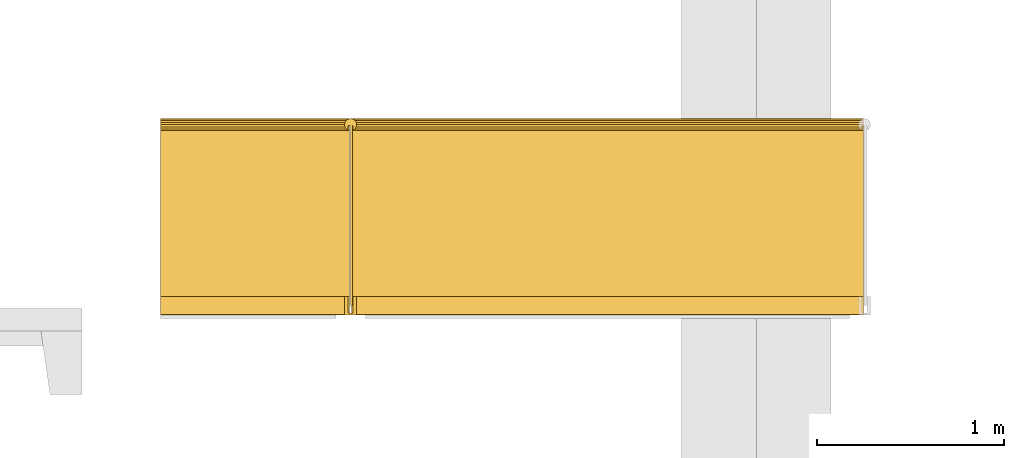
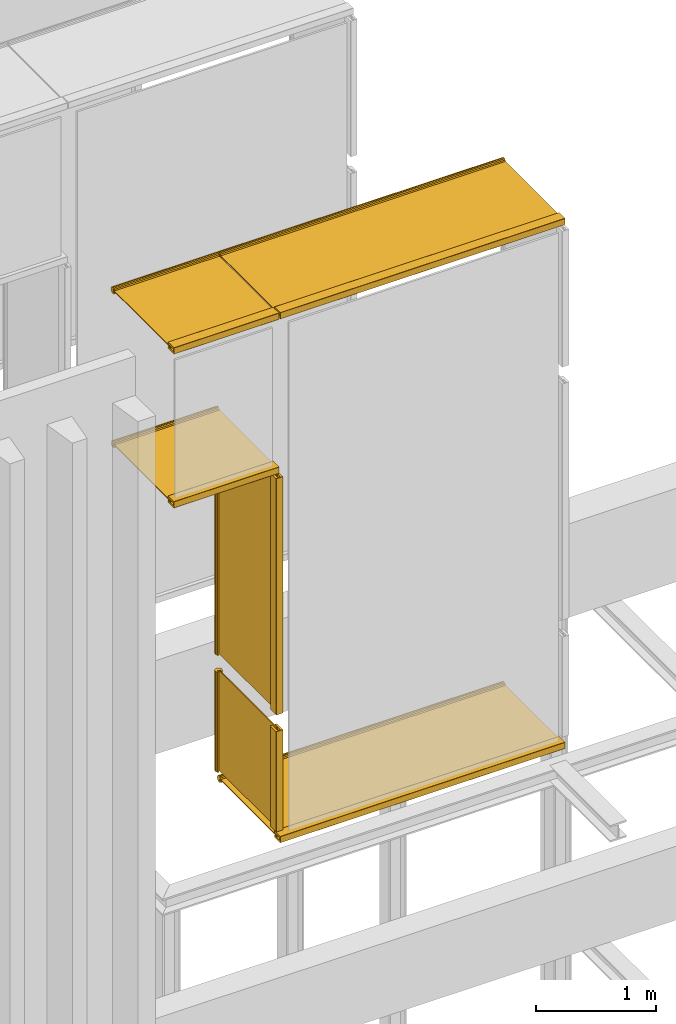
# One storey, part 7 of 15: 6 railings.
"""IFC2X3 building model written with IfcOpenShell, lengths in metres."""

from ifc_helpers import new_model, entity, si_unit, converted_unit, derived_unit, money_unit, direction, frame, origin_with_axes, place, context, subcontext, project, spatial, faceted_brep, material, type_object, element, save


model = new_model("IFC2X3")

# Units and contexts
model_context = context("Model", 3, precision=1e-05, world=origin_with_axes(), true_north=direction((0.0, 1.0)))
body_context = subcontext(model_context, "Body", "Model", "MODEL_VIEW", scale=1.0)
ifc_project = project(units=[si_unit("LENGTHUNIT", "METRE"), si_unit("AREAUNIT", "SQUARE_METRE"), si_unit("VOLUMEUNIT", "CUBIC_METRE"), si_unit("ABSORBEDDOSEUNIT", "GRAY"), si_unit("AMOUNTOFSUBSTANCEUNIT", "MOLE"), si_unit("DOSEEQUIVALENTUNIT", "SIEVERT"), si_unit("ELECTRICCAPACITANCEUNIT", "FARAD"), si_unit("ELECTRICCHARGEUNIT", "COULOMB"), si_unit("ELECTRICCONDUCTANCEUNIT", "SIEMENS"), si_unit("ELECTRICCURRENTUNIT", "AMPERE"), si_unit("ELECTRICRESISTANCEUNIT", "OHM"), si_unit("ELECTRICVOLTAGEUNIT", "VOLT"), si_unit("ENERGYUNIT", "JOULE"), si_unit("FORCEUNIT", "NEWTON"), si_unit("FREQUENCYUNIT", "HERTZ"), si_unit("ILLUMINANCEUNIT", "LUX"), si_unit("INDUCTANCEUNIT", "HENRY"), si_unit("LUMINOUSFLUXUNIT", "LUMEN"), si_unit("LUMINOUSINTENSITYUNIT", "CANDELA"), si_unit("MAGNETICFLUXDENSITYUNIT", "TESLA"), si_unit("MAGNETICFLUXUNIT", "WEBER"), si_unit("MASSUNIT", "GRAM"), converted_unit("PLANEANGLEUNIT", "degree", entity("IfcReal", 0.0174532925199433), si_unit("PLANEANGLEUNIT", "RADIAN"), dimensions=[0, 0, 0, 0, 0, 0, 0]), si_unit("POWERUNIT", "WATT"), si_unit("PRESSUREUNIT", "PASCAL"), si_unit("RADIOACTIVITYUNIT", "BECQUEREL"), si_unit("SOLIDANGLEUNIT", "STERADIAN"), si_unit("THERMODYNAMICTEMPERATUREUNIT", "KELVIN"), si_unit("TIMEUNIT", "SECOND"), derived_unit("ACCELERATIONUNIT", [(si_unit("LENGTHUNIT", "METRE"), 1), (si_unit("TIMEUNIT", "SECOND"), -2)]), derived_unit("ANGULARVELOCITYUNIT", [(converted_unit("PLANEANGLEUNIT", "degree", entity("IfcReal", 0.0174532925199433), si_unit("PLANEANGLEUNIT", "RADIAN"), dimensions=[0, 0, 0, 0, 0, 0, 0]), 1), (si_unit("TIMEUNIT", "SECOND"), -1)]), derived_unit("CURVATUREUNIT", [(converted_unit("PLANEANGLEUNIT", "degree", entity("IfcReal", 0.0174532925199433), si_unit("PLANEANGLEUNIT", "RADIAN"), dimensions=[0, 0, 0, 0, 0, 0, 0]), 1), (si_unit("LENGTHUNIT", "METRE"), -1)]), derived_unit("DYNAMICVISCOSITYUNIT", [(si_unit("PRESSUREUNIT", "PASCAL"), 1), (si_unit("TIMEUNIT", "SECOND"), 1)]), derived_unit("HEATFLUXDENSITYUNIT", [(si_unit("POWERUNIT", "WATT"), 1), (si_unit("LENGTHUNIT", "METRE"), -2)]), derived_unit("HEATINGVALUEUNIT", [(si_unit("ENERGYUNIT", "JOULE"), 1), (si_unit("MASSUNIT", "GRAM"), -1)]), derived_unit("INTEGERCOUNTRATEUNIT", [(si_unit("TIMEUNIT", "SECOND"), -1)]), derived_unit("IONCONCENTRATIONUNIT", [(si_unit("MASSUNIT", "GRAM"), 1), (si_unit("VOLUMEUNIT", "CUBIC_METRE"), -1)]), derived_unit("ISOTHERMALMOISTURECAPACITYUNIT", [(si_unit("VOLUMEUNIT", "CUBIC_METRE"), 1), (si_unit("MASSUNIT", "GRAM"), -1)]), derived_unit("KINEMATICVISCOSITYUNIT", [(si_unit("AREAUNIT", "SQUARE_METRE"), 1), (si_unit("TIMEUNIT", "SECOND"), -1)]), derived_unit("LINEARFORCEUNIT", [(si_unit("FORCEUNIT", "NEWTON"), 1), (si_unit("LENGTHUNIT", "METRE"), -1)]), derived_unit("LINEARMOMENTUNIT", [(si_unit("FORCEUNIT", "NEWTON"), 1), (si_unit("LENGTHUNIT", "METRE"), -1)]), derived_unit("LINEARSTIFFNESSUNIT", [(si_unit("FORCEUNIT", "NEWTON"), 1), (si_unit("LENGTHUNIT", "METRE"), -1)]), derived_unit("LINEARVELOCITYUNIT", [(si_unit("LENGTHUNIT", "METRE"), 1), (si_unit("TIMEUNIT", "SECOND"), -1)]), derived_unit("LUMINOUSINTENSITYDISTRIBUTIONUNIT", [(si_unit("LUMINOUSINTENSITYUNIT", "CANDELA"), 1), (si_unit("LUMINOUSFLUXUNIT", "LUMEN"), -1)]), derived_unit("MASSDENSITYUNIT", [(si_unit("MASSUNIT", "GRAM"), 1), (si_unit("VOLUMEUNIT", "CUBIC_METRE"), -1)]), derived_unit("MASSFLOWRATEUNIT", [(si_unit("MASSUNIT", "GRAM"), 1), (si_unit("TIMEUNIT", "SECOND"), -1)]), derived_unit("MASSPERLENGTHUNIT", [(si_unit("MASSUNIT", "GRAM"), 1), (si_unit("LENGTHUNIT", "METRE"), -1)]), derived_unit("MODULUSOFELASTICITYUNIT", [(si_unit("FORCEUNIT", "NEWTON"), 1), (si_unit("AREAUNIT", "SQUARE_METRE"), -1)]), derived_unit("MODULUSOFLINEARSUBGRADEREACTIONUNIT", [(si_unit("FORCEUNIT", "NEWTON"), 1), (si_unit("LENGTHUNIT", "METRE"), -2)]), derived_unit("MODULUSOFROTATIONALSUBGRADEREACTIONUNIT", [(si_unit("FORCEUNIT", "NEWTON"), 1), (si_unit("LENGTHUNIT", "METRE"), 1)]), derived_unit("MODULUSOFSUBGRADEREACTIONUNIT", [(si_unit("FORCEUNIT", "NEWTON"), 1), (si_unit("VOLUMEUNIT", "CUBIC_METRE"), -1)]), derived_unit("MOISTUREDIFFUSIVITYUNIT", [(si_unit("VOLUMEUNIT", "CUBIC_METRE"), 1), (si_unit("TIMEUNIT", "SECOND"), -1)]), derived_unit("MOLECULARWEIGHTUNIT", [(si_unit("MASSUNIT", "GRAM"), 1), (si_unit("AMOUNTOFSUBSTANCEUNIT", "MOLE"), -1)]), derived_unit("PLANARFORCEUNIT", [(si_unit("FORCEUNIT", "NEWTON"), 1), (si_unit("LENGTHUNIT", "METRE"), -2)]), derived_unit("ROTATIONALFREQUENCYUNIT", [(si_unit("TIMEUNIT", "SECOND"), -1)]), derived_unit("ROTATIONALMASSUNIT", [(si_unit("MASSUNIT", "GRAM"), 1), (si_unit("LENGTHUNIT", "METRE"), 2)]), derived_unit("ROTATIONALSTIFFNESSUNIT", [(si_unit("FORCEUNIT", "NEWTON"), 1), (si_unit("LENGTHUNIT", "METRE"), 1), (converted_unit("PLANEANGLEUNIT", "degree", entity("IfcReal", 0.0174532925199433), si_unit("PLANEANGLEUNIT", "RADIAN"), dimensions=[0, 0, 0, 0, 0, 0, 0]), -1)]), derived_unit("SECTIONAREAINTEGRALUNIT", [(si_unit("LENGTHUNIT", "METRE"), 5)]), derived_unit("SECTIONMODULUSUNIT", [(si_unit("LENGTHUNIT", "METRE"), 3)]), derived_unit("SHEARMODULUSUNIT", [(si_unit("FORCEUNIT", "NEWTON"), 1), (si_unit("AREAUNIT", "SQUARE_METRE"), -1)]), derived_unit("SOUNDPOWERUNIT", [(si_unit("ENERGYUNIT", "JOULE"), 1), (si_unit("TIMEUNIT", "SECOND"), -1)]), derived_unit("SPECIFICHEATCAPACITYUNIT", [(si_unit("FORCEUNIT", "NEWTON"), 1), (si_unit("MASSUNIT", "GRAM"), -1), (si_unit("THERMODYNAMICTEMPERATUREUNIT", "KELVIN"), -1)]), derived_unit("TEMPERATUREGRADIENTUNIT", [(si_unit("THERMODYNAMICTEMPERATUREUNIT", "KELVIN"), 1), (si_unit("LENGTHUNIT", "METRE"), -1)]), derived_unit("THERMALADMITTANCEUNIT", [(si_unit("POWERUNIT", "WATT"), 1), (si_unit("AREAUNIT", "SQUARE_METRE"), -1), (si_unit("THERMODYNAMICTEMPERATUREUNIT", "KELVIN"), -1)]), derived_unit("THERMALCONDUCTANCEUNIT", [(si_unit("POWERUNIT", "WATT"), 1), (si_unit("LENGTHUNIT", "METRE"), -1), (si_unit("THERMODYNAMICTEMPERATUREUNIT", "KELVIN"), -1)]), derived_unit("THERMALEXPANSIONCOEFFICIENTUNIT", [(si_unit("THERMODYNAMICTEMPERATUREUNIT", "KELVIN"), -1)]), derived_unit("THERMALRESISTANCEUNIT", [(si_unit("AREAUNIT", "SQUARE_METRE"), 1), (si_unit("POWERUNIT", "WATT"), -1)]), derived_unit("THERMALTRANSMITTANCEUNIT", [(si_unit("POWERUNIT", "WATT"), 1), (si_unit("AREAUNIT", "SQUARE_METRE"), -1), (si_unit("THERMODYNAMICTEMPERATUREUNIT", "KELVIN"), -1)]), derived_unit("TORQUEUNIT", [(si_unit("FORCEUNIT", "NEWTON"), 1), (si_unit("LENGTHUNIT", "METRE"), 1)]), derived_unit("VAPORPERMEABILITYUNIT", [(si_unit("MASSUNIT", "GRAM"), 1), (si_unit("TIMEUNIT", "SECOND"), -1)]), derived_unit("VOLUMETRICFLOWRATEUNIT", [(si_unit("VOLUMEUNIT", "CUBIC_METRE"), 1), (si_unit("TIMEUNIT", "SECOND"), -1)]), derived_unit("WARPINGCONSTANTUNIT", [(si_unit("LENGTHUNIT", "METRE"), 6)]), derived_unit("WARPINGMOMENTUNIT", [(si_unit("FORCEUNIT", "NEWTON"), 1), (si_unit("LENGTHUNIT", "METRE"), 2)]), money_unit("GBP")], contexts=[model_context])

# Site, building, storey
site_placement = place(None, origin_with_axes())
site = spatial("IfcSite", under=ifc_project, at=site_placement, Name="Site", CompositionType="ELEMENT")
building_placement = place(site_placement, origin_with_axes())
building = spatial("IfcBuilding", under=site, at=building_placement, Name="Building01", CompositionType="ELEMENT")
storey_placement = place(building_placement, origin_with_axes())
storey = spatial("IfcBuildingStorey", under=building, at=storey_placement, Name="GF", CompositionType="ELEMENT", Elevation=0.0)

# Railings
ifc_material = material(Name="A_BSUK_Steel_Miscellaneous")
railing_type = type_object("IfcRailingType", Name="A-RailingGlassPanel-1050mm", PredefinedType="NOTDEFINED")
railing_1_placement = place(storey_placement, frame((15.921381, 5.064467, 21.090134), z_axis=(0.0, 1.0, 0.0), x_axis=(0.0, 0.0, 1.0)))
element("IfcRailing", 1, at=railing_1_placement, inside=storey, type_object=railing_type, material=ifc_material, Name="A-RailingGlassPanel-1050mm", ObjectType="A-RailingGlassPanel-1050mm", PredefinedType="HANDRAIL", context=body_context, shape_type="Brep", body=[
    faceted_brep([(-0.0125, 2.7366, 0.9875), (-0.0125, 0.0, 0.9875), (-0.023022, 0.0, 0.99456), (-0.023022, 2.7366, 0.99456), (-0.030045, 0.0, 1.005108), (-0.030045, 2.7366, 1.005108), (-0.0325, 0.0, 1.017539), (-0.0325, 2.7366, 1.017539), (-0.030015, 0.0, 1.029964), (-0.030015, 2.7366, 1.029964), (-0.022967, 0.0, 1.040495), (-0.022967, 2.7366, 1.040495), (-0.012428, 0.0, 1.04753), (-0.012428, 2.7366, 1.04753), (0.0, 0.0, 1.05), (0.0, 2.7366, 1.05), (0.012428, 0.0, 1.04753), (0.012428, 2.7366, 1.04753), (0.022967, 0.0, 1.040495), (0.022967, 2.7366, 1.040495), (0.030015, 0.0, 1.029964), (0.030015, 2.7366, 1.029964), (0.0325, 0.0, 1.017539), (0.0325, 2.7366, 1.017539), (0.030045, 0.0, 1.005108), (0.030045, 2.7366, 1.005108), (0.023022, 0.0, 0.99456), (0.023022, 2.7366, 0.99456), (0.0125, 0.0, 0.9875), (0.0125, 2.7366, 0.9875), (-0.0125, 2.7366, 1.0125), (-0.0125, 0.0, 1.0125), (0.0125, 2.7366, 1.0125), (0.0125, 0.0, 1.0125)], [[[0, 1, 2, 3]], [[3, 2, 4, 5]], [[5, 4, 6, 7]], [[7, 6, 8, 9]], [[9, 8, 10, 11]], [[11, 10, 12, 13]], [[13, 12, 14, 15]], [[15, 14, 16, 17]], [[17, 16, 18, 19]], [[19, 18, 20, 21]], [[21, 20, 22, 23]], [[23, 22, 24, 25]], [[25, 24, 26, 27]], [[27, 26, 28, 29]], [[0, 30, 31, 1]], [[30, 32, 33, 31]], [[32, 30, 0, 3, 5, 7, 9, 11, 13, 15, 17, 19, 21, 23, 25, 27, 29]], [[32, 29, 28, 33]], [[28, 26, 24, 22, 20, 18, 16, 14, 12, 10, 8, 6, 4, 2, 1, 31, 33]]]),
    faceted_brep([(-0.0295, 2.7366, 0.099925), (-0.0295, 0.0, 0.099925), (-0.0125, 0.0, 0.099925), (-0.0125, 2.7366, 0.099925), (-0.0325, 2.7366, 0.096925), (-0.0325, 0.0, 0.096925), (-0.032272, 0.0, 0.098073), (-0.032272, 2.7366, 0.098073), (-0.031621, 0.0, 0.099046), (-0.031621, 2.7366, 0.099046), (-0.030648, 0.0, 0.099697), (-0.030648, 2.7366, 0.099697), (-0.0325, 2.7366, 0.003), (-0.0325, 0.0, 0.003), (-0.0295, 2.7366, 0.0), (-0.030648, 2.7366, 0.000228), (-0.031621, 2.7366, 0.000879), (-0.032272, 2.7366, 0.001852), (-0.0125, 2.7366, 0.01), (0.0125, 2.7366, 0.01), (0.0125, 2.7366, 0.099925), (0.0295, 2.7366, 0.099925), (0.030648, 2.7366, 0.099697), (0.031621, 2.7366, 0.099046), (0.032272, 2.7366, 0.098073), (0.0325, 2.7366, 0.096925), (0.0325, 2.7366, 0.003), (0.032272, 2.7366, 0.001852), (0.031621, 2.7366, 0.000879), (0.030648, 2.7366, 0.000228), (0.0295, 2.7366, 0.0), (0.0295, 0.0, 0.0), (0.030648, 0.0, 0.000228), (0.031621, 0.0, 0.000879), (0.032272, 0.0, 0.001852), (0.0325, 0.0, 0.003), (0.0325, 0.0, 0.096925), (0.032272, 0.0, 0.098073), (0.031621, 0.0, 0.099046), (0.030648, 0.0, 0.099697), (0.0295, 0.0, 0.099925), (0.0125, 0.0, 0.099925), (0.0125, 0.0, 0.01), (-0.0125, 0.0, 0.01), (-0.032272, 0.0, 0.001852), (-0.031621, 0.0, 0.000879), (-0.030648, 0.0, 0.000228), (-0.0295, 0.0, 0.0)], [[[0, 1, 2, 3]], [[4, 5, 6, 7]], [[7, 6, 8, 9]], [[9, 8, 10, 11]], [[11, 10, 1, 0]], [[4, 12, 13, 5]], [[14, 15, 16, 17, 12, 4, 7, 9, 11, 0, 3, 18, 19, 20, 21, 22, 23, 24, 25, 26, 27, 28, 29, 30]], [[31, 32, 33, 34, 35, 36, 37, 38, 39, 40, 41, 42, 43, 2, 1, 10, 8, 6, 5, 13, 44, 45, 46, 47]], [[14, 47, 46, 15]], [[15, 46, 45, 16]], [[16, 45, 44, 17]], [[17, 44, 13, 12]], [[14, 30, 31, 47]], [[26, 35, 34, 27]], [[27, 34, 33, 28]], [[28, 33, 32, 29]], [[29, 32, 31, 30]], [[26, 25, 36, 35]], [[21, 40, 39, 22]], [[22, 39, 38, 23]], [[23, 38, 37, 24]], [[24, 37, 36, 25]], [[21, 20, 41, 40]], [[20, 19, 42, 41]], [[19, 18, 43, 42]], [[18, 3, 2, 43]]]),
    faceted_brep([(0.0, 0.0, 0.05), (0.0, 0.0, 1.025), (0.0, 2.7366, 1.025), (0.0, 2.7366, 0.05), (0.01, 2.7366, 0.05), (0.01, 2.7366, 1.025), (0.01, 0.0, 1.025), (0.01, 0.0, 0.05)], [[[0, 1, 2, 3]], [[4, 5, 6, 7]], [[0, 7, 6, 1]], [[1, 6, 5, 2]], [[2, 5, 4, 3]], [[3, 4, 7, 0]]]),
])
railing_2_placement = place(storey_placement, frame((15.921381, 5.064467, 26.411335), z_axis=(0.0, 1.0, 0.0), x_axis=(0.0, 0.0, 1.0)))
element("IfcRailing", 2, at=railing_2_placement, inside=storey, type_object=railing_type, material=ifc_material, Name="A-RailingGlassPanel-1050mm", ObjectType="A-RailingGlassPanel-1050mm", PredefinedType="HANDRAIL", context=body_context, shape_type="Brep", body=[
    faceted_brep([(-0.0125, 2.7366, 0.9875), (-0.0125, 0.0, 0.9875), (-0.023022, 0.0, 0.99456), (-0.023022, 2.7366, 0.99456), (-0.030045, 0.0, 1.005108), (-0.030045, 2.7366, 1.005108), (-0.0325, 0.0, 1.017539), (-0.0325, 2.7366, 1.017539), (-0.030015, 0.0, 1.029964), (-0.030015, 2.7366, 1.029964), (-0.022967, 0.0, 1.040495), (-0.022967, 2.7366, 1.040495), (-0.012428, 0.0, 1.04753), (-0.012428, 2.7366, 1.04753), (0.0, 0.0, 1.05), (0.0, 2.7366, 1.05), (0.012428, 0.0, 1.04753), (0.012428, 2.7366, 1.04753), (0.022967, 0.0, 1.040495), (0.022967, 2.7366, 1.040495), (0.030015, 0.0, 1.029964), (0.030015, 2.7366, 1.029964), (0.0325, 0.0, 1.017539), (0.0325, 2.7366, 1.017539), (0.030045, 0.0, 1.005108), (0.030045, 2.7366, 1.005108), (0.023022, 0.0, 0.99456), (0.023022, 2.7366, 0.99456), (0.0125, 0.0, 0.9875), (0.0125, 2.7366, 0.9875), (-0.0125, 2.7366, 1.0125), (-0.0125, 0.0, 1.0125), (0.0125, 2.7366, 1.0125), (0.0125, 0.0, 1.0125)], [[[0, 1, 2, 3]], [[3, 2, 4, 5]], [[5, 4, 6, 7]], [[7, 6, 8, 9]], [[9, 8, 10, 11]], [[11, 10, 12, 13]], [[13, 12, 14, 15]], [[15, 14, 16, 17]], [[17, 16, 18, 19]], [[19, 18, 20, 21]], [[21, 20, 22, 23]], [[23, 22, 24, 25]], [[25, 24, 26, 27]], [[27, 26, 28, 29]], [[0, 30, 31, 1]], [[30, 32, 33, 31]], [[32, 30, 0, 3, 5, 7, 9, 11, 13, 15, 17, 19, 21, 23, 25, 27, 29]], [[32, 29, 28, 33]], [[28, 26, 24, 22, 20, 18, 16, 14, 12, 10, 8, 6, 4, 2, 1, 31, 33]]]),
    faceted_brep([(-0.0295, 2.7366, 0.099925), (-0.0295, 0.0, 0.099925), (-0.0125, 0.0, 0.099925), (-0.0125, 2.7366, 0.099925), (-0.0325, 2.7366, 0.096925), (-0.0325, 0.0, 0.096925), (-0.032272, 0.0, 0.098073), (-0.032272, 2.7366, 0.098073), (-0.031621, 0.0, 0.099046), (-0.031621, 2.7366, 0.099046), (-0.030648, 0.0, 0.099697), (-0.030648, 2.7366, 0.099697), (-0.0325, 2.7366, 0.003), (-0.0325, 0.0, 0.003), (-0.0295, 2.7366, 0.0), (-0.030648, 2.7366, 0.000228), (-0.031621, 2.7366, 0.000879), (-0.032272, 2.7366, 0.001852), (-0.0125, 2.7366, 0.01), (0.0125, 2.7366, 0.01), (0.0125, 2.7366, 0.099925), (0.0295, 2.7366, 0.099925), (0.030648, 2.7366, 0.099697), (0.031621, 2.7366, 0.099046), (0.032272, 2.7366, 0.098073), (0.0325, 2.7366, 0.096925), (0.0325, 2.7366, 0.003), (0.032272, 2.7366, 0.001852), (0.031621, 2.7366, 0.000879), (0.030648, 2.7366, 0.000228), (0.0295, 2.7366, 0.0), (0.0295, 0.0, 0.0), (0.030648, 0.0, 0.000228), (0.031621, 0.0, 0.000879), (0.032272, 0.0, 0.001852), (0.0325, 0.0, 0.003), (0.0325, 0.0, 0.096925), (0.032272, 0.0, 0.098073), (0.031621, 0.0, 0.099046), (0.030648, 0.0, 0.099697), (0.0295, 0.0, 0.099925), (0.0125, 0.0, 0.099925), (0.0125, 0.0, 0.01), (-0.0125, 0.0, 0.01), (-0.032272, 0.0, 0.001852), (-0.031621, 0.0, 0.000879), (-0.030648, 0.0, 0.000228), (-0.0295, 0.0, 0.0)], [[[0, 1, 2, 3]], [[4, 5, 6, 7]], [[7, 6, 8, 9]], [[9, 8, 10, 11]], [[11, 10, 1, 0]], [[4, 12, 13, 5]], [[14, 15, 16, 17, 12, 4, 7, 9, 11, 0, 3, 18, 19, 20, 21, 22, 23, 24, 25, 26, 27, 28, 29, 30]], [[31, 32, 33, 34, 35, 36, 37, 38, 39, 40, 41, 42, 43, 2, 1, 10, 8, 6, 5, 13, 44, 45, 46, 47]], [[14, 47, 46, 15]], [[15, 46, 45, 16]], [[16, 45, 44, 17]], [[17, 44, 13, 12]], [[14, 30, 31, 47]], [[26, 35, 34, 27]], [[27, 34, 33, 28]], [[28, 33, 32, 29]], [[29, 32, 31, 30]], [[26, 25, 36, 35]], [[21, 40, 39, 22]], [[22, 39, 38, 23]], [[23, 38, 37, 24]], [[24, 37, 36, 25]], [[21, 20, 41, 40]], [[20, 19, 42, 41]], [[19, 18, 43, 42]], [[18, 3, 2, 43]]]),
    faceted_brep([(0.0, 0.0, 0.05), (0.0, 0.0, 1.025), (0.0, 2.7366, 1.025), (0.0, 2.7366, 0.05), (0.01, 2.7366, 0.05), (0.01, 2.7366, 1.025), (0.01, 0.0, 1.025), (0.01, 0.0, 0.05)], [[[0, 1, 2, 3]], [[4, 5, 6, 7]], [[0, 7, 6, 1]], [[1, 6, 5, 2]], [[2, 5, 4, 3]], [[3, 4, 7, 0]]]),
])
railing_3_placement = place(storey_placement, frame((14.9, 5.064467, 26.411335), z_axis=(0.0, 1.0, 0.0), x_axis=(0.0, 0.0, 1.0)))
element("IfcRailing", 3, at=railing_3_placement, inside=storey, type_object=railing_type, material=ifc_material, Name="A-RailingGlassPanel-1050mm", ObjectType="A-RailingGlassPanel-1050mm", PredefinedType="HANDRAIL", context=body_context, shape_type="Brep", body=[
    faceted_brep([(-0.0125, 1.010381, 0.9875), (-0.0125, 0.0, 0.9875), (-0.023022, 0.0, 0.99456), (-0.023022, 1.010381, 0.99456), (-0.030045, 0.0, 1.005108), (-0.030045, 1.010381, 1.005108), (-0.0325, 0.0, 1.017539), (-0.0325, 1.010381, 1.017539), (-0.030015, 0.0, 1.029964), (-0.030015, 1.010381, 1.029964), (-0.022967, 0.0, 1.040495), (-0.022967, 1.010381, 1.040495), (-0.012428, 0.0, 1.04753), (-0.012428, 1.010381, 1.04753), (0.0, 0.0, 1.05), (0.0, 1.010381, 1.05), (0.012428, 0.0, 1.04753), (0.012428, 1.010381, 1.04753), (0.022967, 0.0, 1.040495), (0.022967, 1.010381, 1.040495), (0.030015, 0.0, 1.029964), (0.030015, 1.010381, 1.029964), (0.0325, 0.0, 1.017539), (0.0325, 1.010381, 1.017539), (0.030045, 0.0, 1.005108), (0.030045, 1.010381, 1.005108), (0.023022, 0.0, 0.99456), (0.023022, 1.010381, 0.99456), (0.0125, 0.0, 0.9875), (0.0125, 1.010381, 0.9875), (-0.0125, 1.010381, 1.0125), (-0.0125, 0.0, 1.0125), (0.0125, 1.010381, 1.0125), (0.0125, 0.0, 1.0125)], [[[0, 1, 2, 3]], [[3, 2, 4, 5]], [[5, 4, 6, 7]], [[7, 6, 8, 9]], [[9, 8, 10, 11]], [[11, 10, 12, 13]], [[13, 12, 14, 15]], [[15, 14, 16, 17]], [[17, 16, 18, 19]], [[19, 18, 20, 21]], [[21, 20, 22, 23]], [[23, 22, 24, 25]], [[25, 24, 26, 27]], [[27, 26, 28, 29]], [[0, 30, 31, 1]], [[30, 32, 33, 31]], [[32, 30, 0, 3, 5, 7, 9, 11, 13, 15, 17, 19, 21, 23, 25, 27, 29]], [[32, 29, 28, 33]], [[28, 26, 24, 22, 20, 18, 16, 14, 12, 10, 8, 6, 4, 2, 1, 31, 33]]]),
    faceted_brep([(-0.0295, 1.010381, 0.099925), (-0.0295, 0.0, 0.099925), (-0.0125, 0.0, 0.099925), (-0.0125, 1.010381, 0.099925), (-0.0325, 1.010381, 0.096925), (-0.0325, 0.0, 0.096925), (-0.032272, 0.0, 0.098073), (-0.032272, 1.010381, 0.098073), (-0.031621, 0.0, 0.099046), (-0.031621, 1.010381, 0.099046), (-0.030648, 0.0, 0.099697), (-0.030648, 1.010381, 0.099697), (-0.0325, 1.010381, 0.003), (-0.0325, 0.0, 0.003), (-0.0295, 1.010381, 0.0), (-0.030648, 1.010381, 0.000228), (-0.031621, 1.010381, 0.000879), (-0.032272, 1.010381, 0.001852), (-0.0125, 1.010381, 0.01), (0.0125, 1.010381, 0.01), (0.0125, 1.010381, 0.099925), (0.0295, 1.010381, 0.099925), (0.030648, 1.010381, 0.099697), (0.031621, 1.010381, 0.099046), (0.032272, 1.010381, 0.098073), (0.0325, 1.010381, 0.096925), (0.0325, 1.010381, 0.003), (0.032272, 1.010381, 0.001852), (0.031621, 1.010381, 0.000879), (0.030648, 1.010381, 0.000228), (0.0295, 1.010381, 0.0), (0.0295, 0.0, 0.0), (0.030648, 0.0, 0.000228), (0.031621, 0.0, 0.000879), (0.032272, 0.0, 0.001852), (0.0325, 0.0, 0.003), (0.0325, 0.0, 0.096925), (0.032272, 0.0, 0.098073), (0.031621, 0.0, 0.099046), (0.030648, 0.0, 0.099697), (0.0295, 0.0, 0.099925), (0.0125, 0.0, 0.099925), (0.0125, 0.0, 0.01), (-0.0125, 0.0, 0.01), (-0.032272, 0.0, 0.001852), (-0.031621, 0.0, 0.000879), (-0.030648, 0.0, 0.000228), (-0.0295, 0.0, 0.0)], [[[0, 1, 2, 3]], [[4, 5, 6, 7]], [[7, 6, 8, 9]], [[9, 8, 10, 11]], [[11, 10, 1, 0]], [[4, 12, 13, 5]], [[14, 15, 16, 17, 12, 4, 7, 9, 11, 0, 3, 18, 19, 20, 21, 22, 23, 24, 25, 26, 27, 28, 29, 30]], [[31, 32, 33, 34, 35, 36, 37, 38, 39, 40, 41, 42, 43, 2, 1, 10, 8, 6, 5, 13, 44, 45, 46, 47]], [[14, 47, 46, 15]], [[15, 46, 45, 16]], [[16, 45, 44, 17]], [[17, 44, 13, 12]], [[14, 30, 31, 47]], [[26, 35, 34, 27]], [[27, 34, 33, 28]], [[28, 33, 32, 29]], [[29, 32, 31, 30]], [[26, 25, 36, 35]], [[21, 40, 39, 22]], [[22, 39, 38, 23]], [[23, 38, 37, 24]], [[24, 37, 36, 25]], [[21, 20, 41, 40]], [[20, 19, 42, 41]], [[19, 18, 43, 42]], [[18, 3, 2, 43]]]),
    faceted_brep([(0.0, 0.0, 0.05), (0.0, 0.0, 1.025), (0.0, 1.010381, 1.025), (0.0, 1.010381, 0.05), (0.01, 1.010381, 0.05), (0.01, 1.010381, 1.025), (0.01, 0.0, 1.025), (0.01, 0.0, 0.05)], [[[0, 1, 2, 3]], [[4, 5, 6, 7]], [[0, 7, 6, 1]], [[1, 6, 5, 2]], [[2, 5, 4, 3]], [[3, 4, 7, 0]]]),
])
railing_4_placement = place(storey_placement, frame((14.9, 5.064467, 24.848535), z_axis=(0.0, 1.0, 0.0), x_axis=(0.0, 0.0, 1.0)))
element("IfcRailing", 4, at=railing_4_placement, inside=storey, type_object=railing_type, material=ifc_material, Name="A-RailingGlassPanel-1050mm", ObjectType="A-RailingGlassPanel-1050mm", PredefinedType="HANDRAIL", context=body_context, shape_type="Brep", body=[
    faceted_brep([(-0.0125, 1.010381, 0.9875), (-0.0125, 0.0, 0.9875), (-0.023022, 0.0, 0.99456), (-0.023022, 1.010381, 0.99456), (-0.030045, 0.0, 1.005108), (-0.030045, 1.010381, 1.005108), (-0.0325, 0.0, 1.017539), (-0.0325, 1.010381, 1.017539), (-0.030015, 0.0, 1.029964), (-0.030015, 1.010381, 1.029964), (-0.022967, 0.0, 1.040495), (-0.022967, 1.010381, 1.040495), (-0.012428, 0.0, 1.04753), (-0.012428, 1.010381, 1.04753), (0.0, 0.0, 1.05), (0.0, 1.010381, 1.05), (0.012428, 0.0, 1.04753), (0.012428, 1.010381, 1.04753), (0.022967, 0.0, 1.040495), (0.022967, 1.010381, 1.040495), (0.030015, 0.0, 1.029964), (0.030015, 1.010381, 1.029964), (0.0325, 0.0, 1.017539), (0.0325, 1.010381, 1.017539), (0.030045, 0.0, 1.005108), (0.030045, 1.010381, 1.005108), (0.023022, 0.0, 0.99456), (0.023022, 1.010381, 0.99456), (0.0125, 0.0, 0.9875), (0.0125, 1.010381, 0.9875), (-0.0125, 1.010381, 1.0125), (-0.0125, 0.0, 1.0125), (0.0125, 1.010381, 1.0125), (0.0125, 0.0, 1.0125)], [[[0, 1, 2, 3]], [[3, 2, 4, 5]], [[5, 4, 6, 7]], [[7, 6, 8, 9]], [[9, 8, 10, 11]], [[11, 10, 12, 13]], [[13, 12, 14, 15]], [[15, 14, 16, 17]], [[17, 16, 18, 19]], [[19, 18, 20, 21]], [[21, 20, 22, 23]], [[23, 22, 24, 25]], [[25, 24, 26, 27]], [[27, 26, 28, 29]], [[0, 30, 31, 1]], [[30, 32, 33, 31]], [[32, 30, 0, 3, 5, 7, 9, 11, 13, 15, 17, 19, 21, 23, 25, 27, 29]], [[32, 29, 28, 33]], [[28, 26, 24, 22, 20, 18, 16, 14, 12, 10, 8, 6, 4, 2, 1, 31, 33]]]),
    faceted_brep([(-0.0295, 1.010381, 0.099925), (-0.0295, 0.0, 0.099925), (-0.0125, 0.0, 0.099925), (-0.0125, 1.010381, 0.099925), (-0.0325, 1.010381, 0.096925), (-0.0325, 0.0, 0.096925), (-0.032272, 0.0, 0.098073), (-0.032272, 1.010381, 0.098073), (-0.031621, 0.0, 0.099046), (-0.031621, 1.010381, 0.099046), (-0.030648, 0.0, 0.099697), (-0.030648, 1.010381, 0.099697), (-0.0325, 1.010381, 0.003), (-0.0325, 0.0, 0.003), (-0.0295, 1.010381, 0.0), (-0.030648, 1.010381, 0.000228), (-0.031621, 1.010381, 0.000879), (-0.032272, 1.010381, 0.001852), (-0.0125, 1.010381, 0.01), (0.0125, 1.010381, 0.01), (0.0125, 1.010381, 0.099925), (0.0295, 1.010381, 0.099925), (0.030648, 1.010381, 0.099697), (0.031621, 1.010381, 0.099046), (0.032272, 1.010381, 0.098073), (0.0325, 1.010381, 0.096925), (0.0325, 1.010381, 0.003), (0.032272, 1.010381, 0.001852), (0.031621, 1.010381, 0.000879), (0.030648, 1.010381, 0.000228), (0.0295, 1.010381, 0.0), (0.0295, 0.0, 0.0), (0.030648, 0.0, 0.000228), (0.031621, 0.0, 0.000879), (0.032272, 0.0, 0.001852), (0.0325, 0.0, 0.003), (0.0325, 0.0, 0.096925), (0.032272, 0.0, 0.098073), (0.031621, 0.0, 0.099046), (0.030648, 0.0, 0.099697), (0.0295, 0.0, 0.099925), (0.0125, 0.0, 0.099925), (0.0125, 0.0, 0.01), (-0.0125, 0.0, 0.01), (-0.032272, 0.0, 0.001852), (-0.031621, 0.0, 0.000879), (-0.030648, 0.0, 0.000228), (-0.0295, 0.0, 0.0)], [[[0, 1, 2, 3]], [[4, 5, 6, 7]], [[7, 6, 8, 9]], [[9, 8, 10, 11]], [[11, 10, 1, 0]], [[4, 12, 13, 5]], [[14, 15, 16, 17, 12, 4, 7, 9, 11, 0, 3, 18, 19, 20, 21, 22, 23, 24, 25, 26, 27, 28, 29, 30]], [[31, 32, 33, 34, 35, 36, 37, 38, 39, 40, 41, 42, 43, 2, 1, 10, 8, 6, 5, 13, 44, 45, 46, 47]], [[14, 47, 46, 15]], [[15, 46, 45, 16]], [[16, 45, 44, 17]], [[17, 44, 13, 12]], [[14, 30, 31, 47]], [[26, 35, 34, 27]], [[27, 34, 33, 28]], [[28, 33, 32, 29]], [[29, 32, 31, 30]], [[26, 25, 36, 35]], [[21, 40, 39, 22]], [[22, 39, 38, 23]], [[23, 38, 37, 24]], [[24, 37, 36, 25]], [[21, 20, 41, 40]], [[20, 19, 42, 41]], [[19, 18, 43, 42]], [[18, 3, 2, 43]]]),
    faceted_brep([(0.0, 0.0, 0.05), (0.0, 0.0, 1.025), (0.0, 1.010381, 1.025), (0.0, 1.010381, 0.05), (0.01, 1.010381, 0.05), (0.01, 1.010381, 1.025), (0.01, 0.0, 1.025), (0.01, 0.0, 0.05)], [[[0, 1, 2, 3]], [[4, 5, 6, 7]], [[0, 7, 6, 1]], [[1, 6, 5, 2]], [[2, 5, 4, 3]], [[3, 4, 7, 0]]]),
])
railing_5_placement = place(storey_placement, frame((15.915881, 5.064467, 24.769835), z_axis=(0.0, 1.0, 0.0), x_axis=(0.0, 0.0, 1.0)))
element("IfcRailing", 5, at=railing_5_placement, inside=storey, type_object=railing_type, material=ifc_material, Name="A-RailingGlassPanel-1050mm", ObjectType="A-RailingGlassPanel-1050mm", PredefinedType="HANDRAIL", context=body_context, shape_type="Brep", body=[
    faceted_brep([(-2.3998, -0.0125, 0.9875), (0.0, -0.0125, 0.9875), (0.0, -0.023022, 0.99456), (-2.3998, -0.023022, 0.99456), (0.0, -0.030045, 1.005108), (-2.3998, -0.030045, 1.005108), (0.0, -0.0325, 1.017539), (-2.3998, -0.0325, 1.017539), (0.0, -0.030015, 1.029964), (-2.3998, -0.030015, 1.029964), (0.0, -0.022967, 1.040495), (-2.3998, -0.022967, 1.040495), (0.0, -0.012428, 1.04753), (-2.3998, -0.012428, 1.04753), (0.0, 0.0, 1.05), (-2.3998, 0.0, 1.05), (0.0, 0.012428, 1.04753), (-2.3998, 0.012428, 1.04753), (0.0, 0.022967, 1.040495), (-2.3998, 0.022967, 1.040495), (0.0, 0.030015, 1.029964), (-2.3998, 0.030015, 1.029964), (0.0, 0.0325, 1.017539), (-2.3998, 0.0325, 1.017539), (0.0, 0.030045, 1.005108), (-2.3998, 0.030045, 1.005108), (0.0, 0.023022, 0.99456), (-2.3998, 0.023022, 0.99456), (0.0, 0.0125, 0.9875), (-2.3998, 0.0125, 0.9875), (-2.3998, -0.0125, 1.0125), (0.0, -0.0125, 1.0125), (-2.3998, 0.0125, 1.0125), (0.0, 0.0125, 1.0125)], [[[0, 1, 2, 3]], [[3, 2, 4, 5]], [[5, 4, 6, 7]], [[7, 6, 8, 9]], [[9, 8, 10, 11]], [[11, 10, 12, 13]], [[13, 12, 14, 15]], [[15, 14, 16, 17]], [[17, 16, 18, 19]], [[19, 18, 20, 21]], [[21, 20, 22, 23]], [[23, 22, 24, 25]], [[25, 24, 26, 27]], [[27, 26, 28, 29]], [[0, 30, 31, 1]], [[30, 32, 33, 31]], [[32, 30, 0, 3, 5, 7, 9, 11, 13, 15, 17, 19, 21, 23, 25, 27, 29]], [[32, 29, 28, 33]], [[28, 26, 24, 22, 20, 18, 16, 14, 12, 10, 8, 6, 4, 2, 1, 31, 33]]]),
    faceted_brep([(-2.3998, -0.0295, 0.099925), (0.0, -0.0295, 0.099925), (0.0, -0.0125, 0.099925), (-2.3998, -0.0125, 0.099925), (-2.3998, -0.0325, 0.096925), (0.0, -0.0325, 0.096925), (0.0, -0.032272, 0.098073), (-2.3998, -0.032272, 0.098073), (0.0, -0.031621, 0.099046), (-2.3998, -0.031621, 0.099046), (0.0, -0.030648, 0.099697), (-2.3998, -0.030648, 0.099697), (-2.3998, -0.0325, 0.003), (0.0, -0.0325, 0.003), (-2.3998, -0.0295, 0.0), (-2.3998, -0.030648, 0.000228), (-2.3998, -0.031621, 0.000879), (-2.3998, -0.032272, 0.001852), (-2.3998, -0.0125, 0.01), (-2.3998, 0.0125, 0.01), (-2.3998, 0.0125, 0.099925), (-2.3998, 0.0295, 0.099925), (-2.3998, 0.030648, 0.099697), (-2.3998, 0.031621, 0.099046), (-2.3998, 0.032272, 0.098073), (-2.3998, 0.0325, 0.096925), (-2.3998, 0.0325, 0.003), (-2.3998, 0.032272, 0.001852), (-2.3998, 0.031621, 0.000879), (-2.3998, 0.030648, 0.000228), (-2.3998, 0.0295, 0.0), (0.0, 0.0295, 0.0), (0.0, 0.030648, 0.000228), (0.0, 0.031621, 0.000879), (0.0, 0.032272, 0.001852), (0.0, 0.0325, 0.003), (0.0, 0.0325, 0.096925), (0.0, 0.032272, 0.098073), (0.0, 0.031621, 0.099046), (0.0, 0.030648, 0.099697), (0.0, 0.0295, 0.099925), (0.0, 0.0125, 0.099925), (0.0, 0.0125, 0.01), (0.0, -0.0125, 0.01), (0.0, -0.032272, 0.001852), (0.0, -0.031621, 0.000879), (0.0, -0.030648, 0.000228), (0.0, -0.0295, 0.0)], [[[0, 1, 2, 3]], [[4, 5, 6, 7]], [[7, 6, 8, 9]], [[9, 8, 10, 11]], [[11, 10, 1, 0]], [[4, 12, 13, 5]], [[14, 15, 16, 17, 12, 4, 7, 9, 11, 0, 3, 18, 19, 20, 21, 22, 23, 24, 25, 26, 27, 28, 29, 30]], [[31, 32, 33, 34, 35, 36, 37, 38, 39, 40, 41, 42, 43, 2, 1, 10, 8, 6, 5, 13, 44, 45, 46, 47]], [[14, 47, 46, 15]], [[15, 46, 45, 16]], [[16, 45, 44, 17]], [[17, 44, 13, 12]], [[14, 30, 31, 47]], [[26, 35, 34, 27]], [[27, 34, 33, 28]], [[28, 33, 32, 29]], [[29, 32, 31, 30]], [[26, 25, 36, 35]], [[21, 40, 39, 22]], [[22, 39, 38, 23]], [[23, 38, 37, 24]], [[24, 37, 36, 25]], [[21, 20, 41, 40]], [[20, 19, 42, 41]], [[19, 18, 43, 42]], [[18, 3, 2, 43]]]),
    faceted_brep([(0.0, 0.0, 0.05), (0.0, 0.0, 1.025), (-2.3998, 0.0, 1.025), (-2.3998, 0.0, 0.05), (-2.3998, 0.01, 0.05), (-2.3998, 0.01, 1.025), (0.0, 0.01, 1.025), (0.0, 0.01, 0.05)], [[[0, 1, 2, 3]], [[4, 5, 6, 7]], [[0, 7, 6, 1]], [[1, 6, 5, 2]], [[2, 5, 4, 3]], [[3, 4, 7, 0]]]),
])
railing_6_placement = place(storey_placement, frame((15.915881, 5.064467, 22.199835), z_axis=(0.0, 1.0, 0.0), x_axis=(0.0, 0.0, 1.0)))
element("IfcRailing", 6, at=railing_6_placement, inside=storey, type_object=railing_type, material=ifc_material, Name="A-RailingGlassPanel-1050mm", ObjectType="A-RailingGlassPanel-1050mm", PredefinedType="HANDRAIL", context=body_context, shape_type="Brep", body=[
    faceted_brep([(-1.018201, -0.0125, 0.9875), (0.0, -0.0125, 0.9875), (0.0, -0.023022, 0.99456), (-1.018201, -0.023022, 0.99456), (0.0, -0.030045, 1.005108), (-1.018201, -0.030045, 1.005108), (0.0, -0.0325, 1.017539), (-1.018201, -0.0325, 1.017539), (0.0, -0.030015, 1.029964), (-1.018201, -0.030015, 1.029964), (0.0, -0.022967, 1.040495), (-1.018201, -0.022967, 1.040495), (0.0, -0.012428, 1.04753), (-1.018201, -0.012428, 1.04753), (0.0, 0.0, 1.05), (-1.018201, 0.0, 1.05), (0.0, 0.012428, 1.04753), (-1.018201, 0.012428, 1.04753), (0.0, 0.022967, 1.040495), (-1.018201, 0.022967, 1.040495), (0.0, 0.030015, 1.029964), (-1.018201, 0.030015, 1.029964), (0.0, 0.0325, 1.017539), (-1.018201, 0.0325, 1.017539), (0.0, 0.030045, 1.005108), (-1.018201, 0.030045, 1.005108), (0.0, 0.023022, 0.99456), (-1.018201, 0.023022, 0.99456), (0.0, 0.0125, 0.9875), (-1.018201, 0.0125, 0.9875), (-1.018201, -0.0125, 1.0125), (0.0, -0.0125, 1.0125), (-1.018201, 0.0125, 1.0125), (0.0, 0.0125, 1.0125)], [[[0, 1, 2, 3]], [[3, 2, 4, 5]], [[5, 4, 6, 7]], [[7, 6, 8, 9]], [[9, 8, 10, 11]], [[11, 10, 12, 13]], [[13, 12, 14, 15]], [[15, 14, 16, 17]], [[17, 16, 18, 19]], [[19, 18, 20, 21]], [[21, 20, 22, 23]], [[23, 22, 24, 25]], [[25, 24, 26, 27]], [[27, 26, 28, 29]], [[0, 30, 31, 1]], [[30, 32, 33, 31]], [[32, 30, 0, 3, 5, 7, 9, 11, 13, 15, 17, 19, 21, 23, 25, 27, 29]], [[32, 29, 28, 33]], [[28, 26, 24, 22, 20, 18, 16, 14, 12, 10, 8, 6, 4, 2, 1, 31, 33]]]),
    faceted_brep([(-1.018201, -0.0295, 0.099925), (0.0, -0.0295, 0.099925), (0.0, -0.0125, 0.099925), (-1.018201, -0.0125, 0.099925), (-1.018201, -0.0325, 0.096925), (0.0, -0.0325, 0.096925), (0.0, -0.032272, 0.098073), (-1.018201, -0.032272, 0.098073), (0.0, -0.031621, 0.099046), (-1.018201, -0.031621, 0.099046), (0.0, -0.030648, 0.099697), (-1.018201, -0.030648, 0.099697), (-1.018201, -0.0325, 0.003), (0.0, -0.0325, 0.003), (-1.018201, -0.0295, 0.0), (-1.018201, -0.030648, 0.000228), (-1.018201, -0.031621, 0.000879), (-1.018201, -0.032272, 0.001852), (-1.018201, -0.0125, 0.01), (-1.018201, 0.0125, 0.01), (-1.018201, 0.0125, 0.099925), (-1.018201, 0.0295, 0.099925), (-1.018201, 0.030648, 0.099697), (-1.018201, 0.031621, 0.099046), (-1.018201, 0.032272, 0.098073), (-1.018201, 0.0325, 0.096925), (-1.018201, 0.0325, 0.003), (-1.018201, 0.032272, 0.001852), (-1.018201, 0.031621, 0.000879), (-1.018201, 0.030648, 0.000228), (-1.018201, 0.0295, 0.0), (0.0, 0.0295, 0.0), (0.0, 0.030648, 0.000228), (0.0, 0.031621, 0.000879), (0.0, 0.032272, 0.001852), (0.0, 0.0325, 0.003), (0.0, 0.0325, 0.096925), (0.0, 0.032272, 0.098073), (0.0, 0.031621, 0.099046), (0.0, 0.030648, 0.099697), (0.0, 0.0295, 0.099925), (0.0, 0.0125, 0.099925), (0.0, 0.0125, 0.01), (0.0, -0.0125, 0.01), (0.0, -0.032272, 0.001852), (0.0, -0.031621, 0.000879), (0.0, -0.030648, 0.000228), (0.0, -0.0295, 0.0)], [[[0, 1, 2, 3]], [[4, 5, 6, 7]], [[7, 6, 8, 9]], [[9, 8, 10, 11]], [[11, 10, 1, 0]], [[4, 12, 13, 5]], [[14, 15, 16, 17, 12, 4, 7, 9, 11, 0, 3, 18, 19, 20, 21, 22, 23, 24, 25, 26, 27, 28, 29, 30]], [[31, 32, 33, 34, 35, 36, 37, 38, 39, 40, 41, 42, 43, 2, 1, 10, 8, 6, 5, 13, 44, 45, 46, 47]], [[14, 47, 46, 15]], [[15, 46, 45, 16]], [[16, 45, 44, 17]], [[17, 44, 13, 12]], [[14, 30, 31, 47]], [[26, 35, 34, 27]], [[27, 34, 33, 28]], [[28, 33, 32, 29]], [[29, 32, 31, 30]], [[26, 25, 36, 35]], [[21, 40, 39, 22]], [[22, 39, 38, 23]], [[23, 38, 37, 24]], [[24, 37, 36, 25]], [[21, 20, 41, 40]], [[20, 19, 42, 41]], [[19, 18, 43, 42]], [[18, 3, 2, 43]]]),
    faceted_brep([(0.0, 0.0, 0.05), (0.0, 0.0, 1.025), (-1.018201, 0.0, 1.025), (-1.018201, 0.0, 0.05), (-1.018201, 0.01, 0.05), (-1.018201, 0.01, 1.025), (0.0, 0.01, 1.025), (0.0, 0.01, 0.05)], [[[0, 1, 2, 3]], [[4, 5, 6, 7]], [[0, 7, 6, 1]], [[1, 6, 5, 2]], [[2, 5, 4, 3]], [[3, 4, 7, 0]]]),
])

save(model, "model.ifc")
